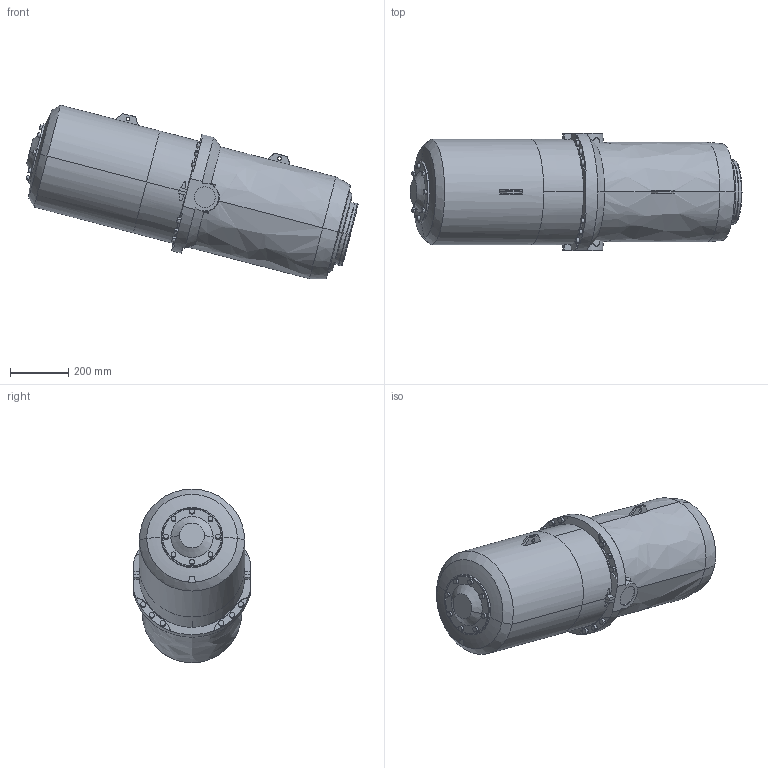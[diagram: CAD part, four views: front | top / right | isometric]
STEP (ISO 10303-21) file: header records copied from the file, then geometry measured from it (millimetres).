
FILE_DESCRIPTION (( 'STEP AP214' ), '1' );
FILE_NAME ('IRB6730S_All_OC_00_CYL_CAD.step', '2026-05-26T10:38:31', ( '' ), ( '' ), 'SwSTEP 2.0', 'SolidWorks 2024', '' );
FILE_SCHEMA (( 'AUTOMOTIVE_DESIGN' ));
Length unit declared in the file: millimetre
Products named in the file (1): IRB6730S_All_OC_00_CYL_CAD
Bounding box: 1135.4 x 400 x 593.95 mm (x, y, z)
Volume: 106469530.3 mm3; surface area: 1645421.5 mm2
Topology: 1 solids, 1 shells, 235 faces, 627 edges, 416 vertices
Faces by surface type: plane 87, cylinder 76, cone 52, bspline 16, torus 4
Entity records: 13454 total; most frequent: CARTESIAN_POINT 7734, ORIENTED_EDGE 1254, DIRECTION 1059, EDGE_CURVE 627, AXIS2_PLACEMENT_3D 422, VERTEX_POINT 416, EDGE_LOOP 269, FACE_OUTER_BOUND 235
